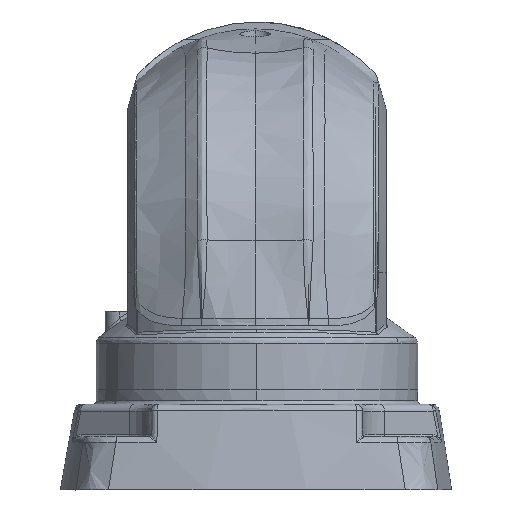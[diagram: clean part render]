
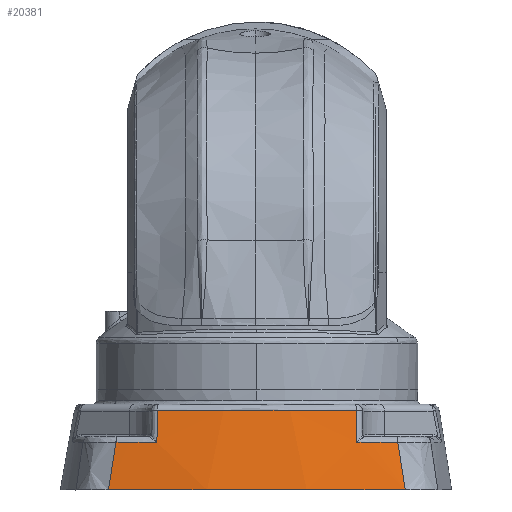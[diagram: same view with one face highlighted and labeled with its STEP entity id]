
A CAD part, left-side view. The second image highlights one B-rep face of the part: STEP entity #20381.
In plain terms, the highlighted conical face has half-angle 10 degrees and reference radius 200 mm.
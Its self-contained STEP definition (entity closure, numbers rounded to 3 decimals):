
#865 = VERTEX_POINT ( 'NONE', #44408 ) ;
#1500 = AXIS2_PLACEMENT_3D ( 'NONE', #44808, #19468, #38598 ) ;
#2614 = EDGE_CURVE ( 'NONE', #3310, #48592, #8436, .T. ) ;
#3310 = VERTEX_POINT ( 'NONE', #40387 ) ;
#3495 = CARTESIAN_POINT ( 'NONE',  ( -49.072, -27.848, -467.153 ) ) ;
#4674 = B_SPLINE_CURVE_WITH_KNOTS ( 'NONE', 3,
 ( #28336, #5280, #9137, #36059 ),
 .UNSPECIFIED., .F., .F.,
 ( 4, 4 ),
 ( 0., 1. ),
 .UNSPECIFIED. ) ;
#5280 = CARTESIAN_POINT ( 'NONE',  ( -49.98, -40.835, -485.014 ) ) ;
#5387 = DIRECTION ( 'NONE',  ( 0., 0., 1. ) ) ;
#5659 = EDGE_CURVE ( 'NONE', #17626, #24865, #6900, .T. ) ;
#5901 = CARTESIAN_POINT ( 'NONE',  ( 145., 0., -467.153 ) ) ;
#6900 = CIRCLE ( 'NONE', #15713, 197.647 ) ;
#7260 = EDGE_CURVE ( 'NONE', #32539, #24865, #4674, .T. ) ;
#7426 = CARTESIAN_POINT ( 'NONE',  ( -50.656, -27.979, -476.153 ) ) ;
#8436 = B_SPLINE_CURVE_WITH_KNOTS ( 'NONE', 3,
 ( #18091, #10319, #21985, #25826 ),
 .UNSPECIFIED., .F., .F.,
 ( 4, 4 ),
 ( 0., 1. ),
 .UNSPECIFIED. ) ;
#9137 = CARTESIAN_POINT ( 'NONE',  ( -49.323, -40.14, -480.565 ) ) ;
#9760 = DIRECTION ( 'NONE',  ( 1., -0.016, 0. ) ) ;
#10319 = CARTESIAN_POINT ( 'NONE',  ( -49.6, 27.87, -470.133 ) ) ;
#10384 = EDGE_CURVE ( 'NONE', #36187, #865, #37059, .T. ) ;
#11919 = DIRECTION ( 'NONE',  ( 0., 0., 1. ) ) ;
#12208 = EDGE_CURVE ( 'NONE', #35919, #3310, #18167, .T. ) ;
#13333 = ORIENTED_EDGE ( 'NONE', *, *, #7260, .T. ) ;
#14876 = ORIENTED_EDGE ( 'NONE', *, *, #2614, .T. ) ;
#15383 = CARTESIAN_POINT ( 'NONE',  ( -50.64, -41.534, -489.5 ) ) ;
#15713 = AXIS2_PLACEMENT_3D ( 'NONE', #34987, #11919, #38835 ) ;
#15888 = ORIENTED_EDGE ( 'NONE', *, *, #5659, .F. ) ;
#16856 = CARTESIAN_POINT ( 'NONE',  ( 145., 0., -489.5 ) ) ;
#17416 = CARTESIAN_POINT ( 'NONE',  ( -48.67, 39.449, -476.153 ) ) ;
#17626 = VERTEX_POINT ( 'NONE', #7426 ) ;
#18091 = CARTESIAN_POINT ( 'NONE',  ( -49.072, 27.848, -467.153 ) ) ;
#18165 = ORIENTED_EDGE ( 'NONE', *, *, #26328, .F. ) ;
#18167 = CIRCLE ( 'NONE', #20089, 196.06 ) ;
#18819 = CARTESIAN_POINT ( 'NONE',  ( -50.656, -27.979, -476.153 ) ) ;
#19343 = AXIS2_PLACEMENT_3D ( 'NONE', #16856, #43684, #20758 ) ;
#19468 = DIRECTION ( 'NONE',  ( 0., 0., -1. ) ) ;
#19731 = CARTESIAN_POINT ( 'NONE',  ( -49.072, -27.848, -467.153 ) ) ;
#20089 = AXIS2_PLACEMENT_3D ( 'NONE', #5901, #32825, #9760 ) ;
#20243 = CARTESIAN_POINT ( 'NONE',  ( -50.656, 27.979, -476.153 ) ) ;
#20381 = ADVANCED_FACE ( 'NONE', ( #38305 ), #35881, .T. ) ;
#20758 = DIRECTION ( 'NONE',  ( 0., 1., 0. ) ) ;
#21311 = CARTESIAN_POINT ( 'NONE',  ( -49.323, 40.14, -480.565 ) ) ;
#21985 = CARTESIAN_POINT ( 'NONE',  ( -50.128, 27.913, -473.133 ) ) ;
#22871 = ORIENTED_EDGE ( 'NONE', *, *, #27523, .T. ) ;
#23843 = AXIS2_PLACEMENT_3D ( 'NONE', #28441, #5387, #32313 ) ;
#24865 = VERTEX_POINT ( 'NONE', #28499 ) ;
#25156 = CARTESIAN_POINT ( 'NONE',  ( -50.64, 41.534, -489.5 ) ) ;
#25588 = CARTESIAN_POINT ( 'NONE',  ( -48.67, 39.449, -476.153 ) ) ;
#25826 = CARTESIAN_POINT ( 'NONE',  ( -50.656, 27.979, -476.153 ) ) ;
#26328 = EDGE_CURVE ( 'NONE', #36187, #48592, #35695, .T. ) ;
#26550 = CARTESIAN_POINT ( 'NONE',  ( -49.6, -27.87, -470.133 ) ) ;
#27261 = ORIENTED_EDGE ( 'NONE', *, *, #10384, .T. ) ;
#27523 = EDGE_CURVE ( 'NONE', #865, #32539, #29069, .T. ) ;
#28336 = CARTESIAN_POINT ( 'NONE',  ( -50.64, -41.534, -489.5 ) ) ;
#28441 = CARTESIAN_POINT ( 'NONE',  ( 145., 0., -476.153 ) ) ;
#28499 = CARTESIAN_POINT ( 'NONE',  ( -48.67, -39.449, -476.153 ) ) ;
#29069 = CIRCLE ( 'NONE', #19343, 200. ) ;
#32313 = DIRECTION ( 'NONE',  ( 0.999, 0.042, 0. ) ) ;
#32406 = ORIENTED_EDGE ( 'NONE', *, *, #12208, .T. ) ;
#32539 = VERTEX_POINT ( 'NONE', #15383 ) ;
#32825 = DIRECTION ( 'NONE',  ( 0., 0., -1. ) ) ;
#34856 = ORIENTED_EDGE ( 'NONE', *, *, #48137, .T. ) ;
#34987 = CARTESIAN_POINT ( 'NONE',  ( 145., 0., -476.153 ) ) ;
#35695 = CIRCLE ( 'NONE', #23843, 197.647 ) ;
#35881 = CONICAL_SURFACE ( 'NONE', #1500, 200., 0.175 ) ;
#35919 = VERTEX_POINT ( 'NONE', #19731 ) ;
#36059 = CARTESIAN_POINT ( 'NONE',  ( -48.67, -39.449, -476.153 ) ) ;
#36187 = VERTEX_POINT ( 'NONE', #25588 ) ;
#37059 = B_SPLINE_CURVE_WITH_KNOTS ( 'NONE', 3,
 ( #17416, #21311, #48105, #25156 ),
 .UNSPECIFIED., .F., .F.,
 ( 4, 4 ),
 ( 0., 1. ),
 .UNSPECIFIED. ) ;
#38305 = FACE_OUTER_BOUND ( 'NONE', #38419, .T. ) ;
#38419 = EDGE_LOOP ( 'NONE', ( #34856, #32406, #14876, #18165, #27261, #22871, #13333, #15888 ) ) ;
#38598 = DIRECTION ( 'NONE',  ( 0., 1., 0. ) ) ;
#38835 = DIRECTION ( 'NONE',  ( -0.999, 0.042, 0. ) ) ;
#40387 = CARTESIAN_POINT ( 'NONE',  ( -49.072, 27.848, -467.153 ) ) ;
#41801 = CARTESIAN_POINT ( 'NONE',  ( -50.128, -27.913, -473.133 ) ) ;
#43684 = DIRECTION ( 'NONE',  ( 0., 0., 1. ) ) ;
#44408 = CARTESIAN_POINT ( 'NONE',  ( -50.64, 41.534, -489.5 ) ) ;
#44808 = CARTESIAN_POINT ( 'NONE',  ( 145., 0., -489.5 ) ) ;
#48105 = CARTESIAN_POINT ( 'NONE',  ( -49.98, 40.835, -485.014 ) ) ;
#48137 = EDGE_CURVE ( 'NONE', #17626, #35919, #48618, .T. ) ;
#48592 = VERTEX_POINT ( 'NONE', #20243 ) ;
#48618 = B_SPLINE_CURVE_WITH_KNOTS ( 'NONE', 3,
 ( #18819, #41801, #26550, #3495 ),
 .UNSPECIFIED., .F., .F.,
 ( 4, 4 ),
 ( 0., 1. ),
 .UNSPECIFIED. ) ;
